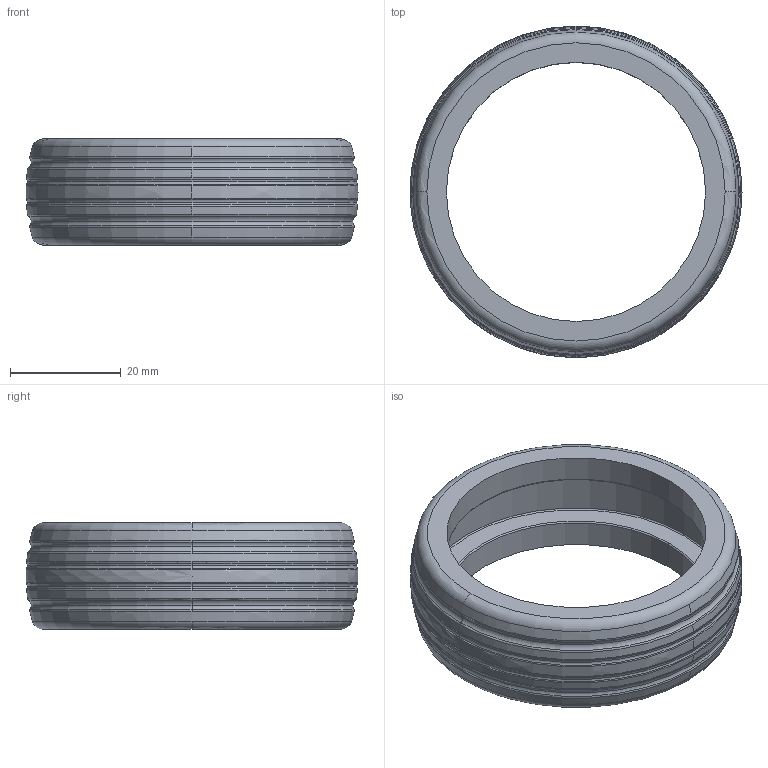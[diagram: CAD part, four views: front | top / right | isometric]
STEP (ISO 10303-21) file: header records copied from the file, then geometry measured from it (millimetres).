
FILE_DESCRIPTION (( 'STEP AP203' ), '1' );
FILE_NAME ('HUBee Tyre.STEP', '2013-02-22T16:43:34', ( 'tom' ), ( '' ), 'SwSTEP 2.0', 'SolidWorks 2011', '' );
FILE_SCHEMA (( 'CONFIG_CONTROL_DESIGN' ));
Length unit declared in the file: millimetre
Products named in the file (1): HUBee Tyre
Bounding box: 60 x 60 x 19.2 mm (x, y, z)
Volume: 12875.3 mm3; surface area: 9471.3 mm2
Topology: 1 solids, 1 shells, 64 faces, 153 edges, 91 vertices
Faces by surface type: torus 44, sphere 10, cone 4, plane 4, cylinder 2
Entity records: 1959 total; most frequent: DIRECTION 420, CARTESIAN_POINT 301, ORIENTED_EDGE 296, AXIS2_PLACEMENT_3D 207, EDGE_CURVE 148, CIRCLE 142, VERTEX_POINT 88, EDGE_LOOP 68
